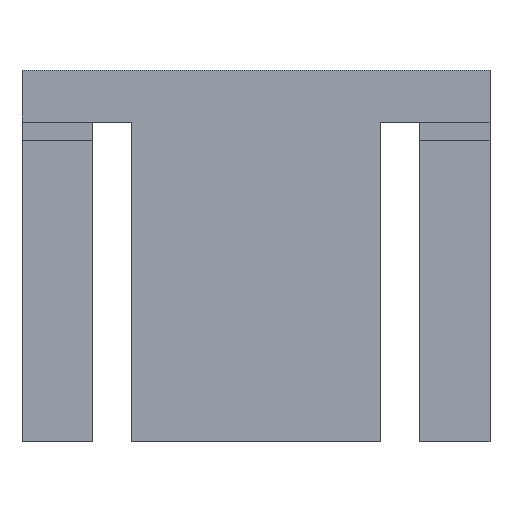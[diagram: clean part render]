
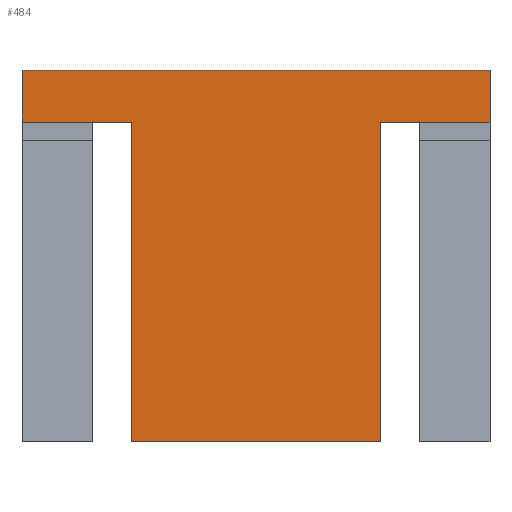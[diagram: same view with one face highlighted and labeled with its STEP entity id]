
A CAD part, left-side view. The second image highlights one B-rep face of the part: STEP entity #484.
In plain terms, the highlighted planar face has unit normal (-1, 0, 0).
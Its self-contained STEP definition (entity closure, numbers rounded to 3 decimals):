
#38=FACE_OUTER_BOUND('',#62,.T.);
#62=EDGE_LOOP('',(#429,#430,#431,#432,#433,#434,#435,#436));
#76=LINE('',#670,#142);
#88=LINE('',#694,#154);
#102=LINE('',#720,#168);
#106=LINE('',#728,#172);
#114=LINE('',#742,#180);
#122=LINE('',#760,#188);
#127=LINE('',#770,#193);
#128=LINE('',#772,#194);
#142=VECTOR('',#544,10.);
#154=VECTOR('',#562,10.);
#168=VECTOR('',#584,10.);
#172=VECTOR('',#588,10.);
#180=VECTOR('',#602,10.);
#188=VECTOR('',#622,10.);
#193=VECTOR('',#633,10.);
#194=VECTOR('',#636,10.);
#207=VERTEX_POINT('',#667);
#208=VERTEX_POINT('',#669);
#217=VERTEX_POINT('',#693);
#225=VERTEX_POINT('',#719);
#228=VERTEX_POINT('',#725);
#229=VERTEX_POINT('',#727);
#235=VERTEX_POINT('',#757);
#238=VERTEX_POINT('',#768);
#252=EDGE_CURVE('',#207,#208,#76,.T.);
#264=EDGE_CURVE('',#208,#217,#88,.T.);
#278=EDGE_CURVE('',#217,#225,#102,.T.);
#282=EDGE_CURVE('',#228,#229,#106,.T.);
#290=EDGE_CURVE('',#207,#229,#114,.T.);
#298=EDGE_CURVE('',#228,#235,#122,.T.);
#303=EDGE_CURVE('',#238,#235,#127,.T.);
#304=EDGE_CURVE('',#225,#238,#128,.T.);
#429=ORIENTED_EDGE('',*,*,#298,.T.);
#430=ORIENTED_EDGE('',*,*,#303,.F.);
#431=ORIENTED_EDGE('',*,*,#304,.F.);
#432=ORIENTED_EDGE('',*,*,#278,.F.);
#433=ORIENTED_EDGE('',*,*,#264,.F.);
#434=ORIENTED_EDGE('',*,*,#252,.F.);
#435=ORIENTED_EDGE('',*,*,#290,.T.);
#436=ORIENTED_EDGE('',*,*,#282,.F.);
#460=PLANE('',#522);
#484=ADVANCED_FACE('',(#38),#460,.F.);
#522=AXIS2_PLACEMENT_3D('',#773,#637,#638);
#544=DIRECTION('',(0.,-1.,0.));
#562=DIRECTION('',(0.,0.,-1.));
#584=DIRECTION('',(0.,1.,0.));
#588=DIRECTION('',(0.,1.,0.));
#602=DIRECTION('',(0.,0.,-1.));
#622=DIRECTION('',(0.,0.,-1.));
#633=DIRECTION('',(0.,1.,0.));
#636=DIRECTION('',(0.,0.,-1.));
#637=DIRECTION('center_axis',(1.,0.,0.));
#638=DIRECTION('ref_axis',(0.,0.,-1.));
#667=CARTESIAN_POINT('',(32.6,-1.5,-5.05));
#669=CARTESIAN_POINT('',(32.6,-10.5,-5.05));
#670=CARTESIAN_POINT('',(32.6,-6.,-5.05));
#693=CARTESIAN_POINT('',(32.6,-10.5,-6.05));
#694=CARTESIAN_POINT('',(32.6,-10.5,-5.55));
#719=CARTESIAN_POINT('',(32.6,-8.4,-6.05));
#720=CARTESIAN_POINT('',(32.6,-6.,-6.05));
#725=CARTESIAN_POINT('',(32.6,-3.6,-6.05));
#727=CARTESIAN_POINT('',(32.6,-1.5,-6.05));
#728=CARTESIAN_POINT('',(32.6,-6.,-6.05));
#742=CARTESIAN_POINT('',(32.6,-1.5,-5.55));
#757=CARTESIAN_POINT('',(32.6,-3.6,-12.2));
#760=CARTESIAN_POINT('',(32.6,-3.6,-8.625));
#768=CARTESIAN_POINT('',(32.6,-8.4,-12.2));
#770=CARTESIAN_POINT('',(32.6,-6.,-12.2));
#772=CARTESIAN_POINT('',(32.6,-8.4,-8.625));
#773=CARTESIAN_POINT('Origin',(32.6,-6.,-8.625));
